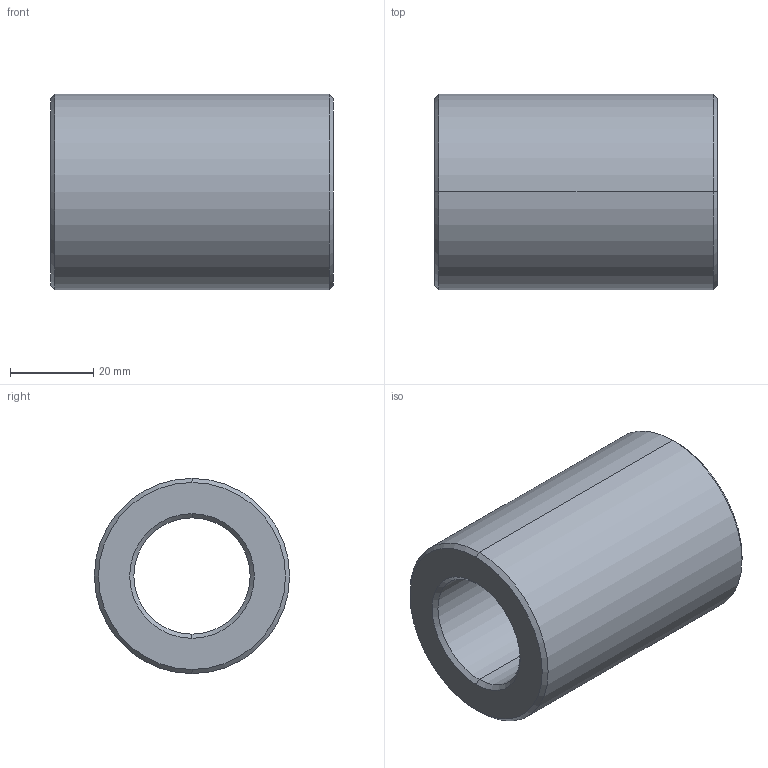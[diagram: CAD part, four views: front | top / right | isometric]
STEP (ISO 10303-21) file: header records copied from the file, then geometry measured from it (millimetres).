
FILE_DESCRIPTION (( 'STEP AP203' ), '1' );
FILE_NAME ('Muffe M30.STEP', '2018-02-22T09:21:32', ( 'install' ), ( 'Hewlett-Packard Company' ), 'SwSTEP 2.0', 'SolidWorks 2017', '' );
FILE_SCHEMA (( 'CONFIG_CONTROL_DESIGN' ));
Length unit declared in the file: millimetre
Products named in the file (1): Muffe M30
Bounding box: 68 x 47 x 47 mm (x, y, z)
Volume: 75869.5 mm3; surface area: 17984.5 mm2
Topology: 1 solids, 1 shells, 14 faces, 28 edges, 16 vertices
Faces by surface type: cone 8, cylinder 4, plane 2
Entity records: 445 total; most frequent: DIRECTION 74, CARTESIAN_POINT 59, ORIENTED_EDGE 56, AXIS2_PLACEMENT_3D 31, EDGE_CURVE 28, CIRCLE 16, VERTEX_POINT 16, EDGE_LOOP 16
